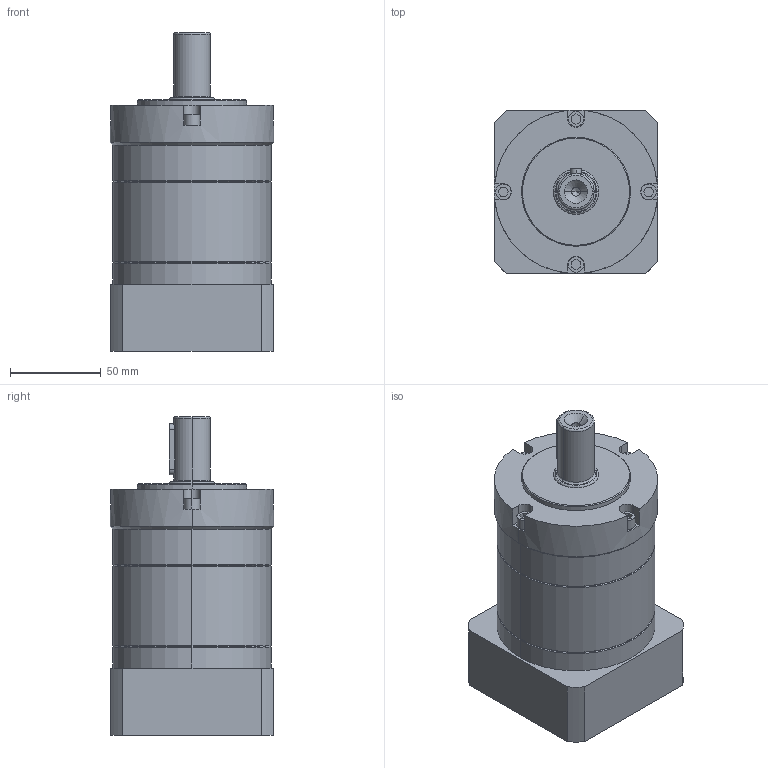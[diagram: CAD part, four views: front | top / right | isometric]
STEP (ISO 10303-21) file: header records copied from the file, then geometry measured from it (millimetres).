
FILE_DESCRIPTION (( 'STEP AP214' ), '1' );
FILE_NAME ('PLE-090-L2-S2-P2 19-70-90-M6.STEP', '2024-02-03T06:11:22', ( '微软用户' ), ( '微软中国' ), 'SwSTEP 2.0', 'SolidWorks 2018', '' );
FILE_SCHEMA (( 'AUTOMOTIVE_DESIGN' ));
Length unit declared in the file: millimetre
Products named in the file (1): PLE-090-L2-S2-P2 19-70-90-M6
Bounding box: 90 x 90 x 175.5 mm (x, y, z)
Volume: 829878.1 mm3; surface area: 73599.8 mm2
Topology: 1 solids, 1 shells, 142 faces, 334 edges, 213 vertices
Faces by surface type: plane 70, cylinder 50, cone 16, torus 6
Entity records: 4180 total; most frequent: CARTESIAN_POINT 751, DIRECTION 746, ORIENTED_EDGE 664, EDGE_CURVE 332, AXIS2_PLACEMENT_3D 274, VERTEX_POINT 213, LINE 198, VECTOR 198
